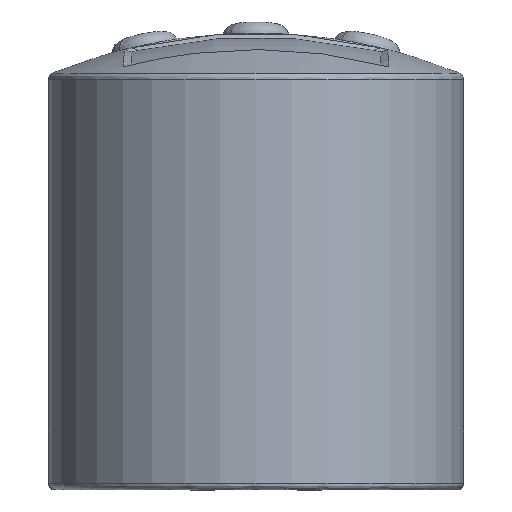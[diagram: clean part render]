
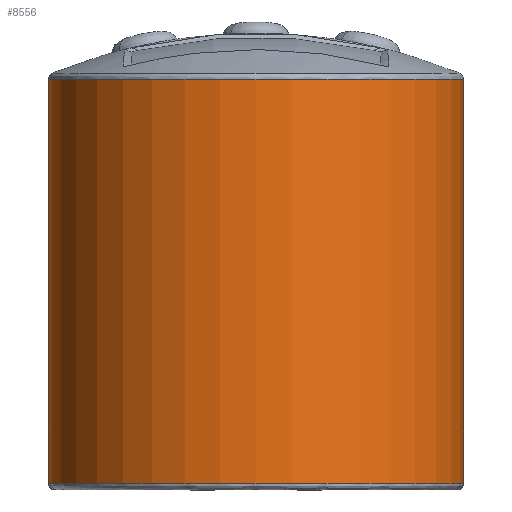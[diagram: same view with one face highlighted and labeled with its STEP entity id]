
A CAD part, front view. The second image highlights one B-rep face of the part: STEP entity #8556.
In plain terms, the highlighted cylindrical face has radius 15 mm (diameter 30 mm), a partial arc.
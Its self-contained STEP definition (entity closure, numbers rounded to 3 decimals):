
#472 = VECTOR ( 'NONE', #2467, 1000. ) ;
#660 = CARTESIAN_POINT ( 'NONE',  ( -15., 0., 29.675 ) ) ;
#978 = AXIS2_PLACEMENT_3D ( 'NONE', #6578, #2201, #7333 ) ;
#991 = DIRECTION ( 'NONE',  ( 0., 0., 1. ) ) ;
#1021 = VERTEX_POINT ( 'NONE', #6339 ) ;
#2201 = DIRECTION ( 'NONE',  ( 0., 0., -1. ) ) ;
#2467 = DIRECTION ( 'NONE',  ( 0., 0., -1. ) ) ;
#2561 = EDGE_LOOP ( 'NONE', ( #9119, #4866, #7107, #2721 ) ) ;
#2721 = ORIENTED_EDGE ( 'NONE', *, *, #6577, .T. ) ;
#2850 = LINE ( 'NONE', #5021, #7466 ) ;
#3116 = AXIS2_PLACEMENT_3D ( 'NONE', #5435, #991, #6158 ) ;
#3261 = CARTESIAN_POINT ( 'NONE',  ( 15., 0., 0.5 ) ) ;
#4371 = DIRECTION ( 'NONE',  ( 0., 0., -1. ) ) ;
#4866 = ORIENTED_EDGE ( 'NONE', *, *, #7522, .T. ) ;
#5021 = CARTESIAN_POINT ( 'NONE',  ( -15., 0., 30. ) ) ;
#5039 = CARTESIAN_POINT ( 'NONE',  ( 15., 0., 29.675 ) ) ;
#5206 = VERTEX_POINT ( 'NONE', #660 ) ;
#5435 = CARTESIAN_POINT ( 'NONE',  ( 0., 0., 0.5 ) ) ;
#5946 = FACE_OUTER_BOUND ( 'NONE', #2561, .T. ) ;
#6021 = CIRCLE ( 'NONE', #978, 15. ) ;
#6139 = EDGE_CURVE ( 'NONE', #7659, #7060, #7889, .T. ) ;
#6158 = DIRECTION ( 'NONE',  ( -1., 0., 0. ) ) ;
#6333 = DIRECTION ( 'NONE',  ( -1., 0., 0. ) ) ;
#6339 = CARTESIAN_POINT ( 'NONE',  ( -15., 0., 0.5 ) ) ;
#6420 = EDGE_CURVE ( 'NONE', #5206, #1021, #2850, .T. ) ;
#6577 = EDGE_CURVE ( 'NONE', #1021, #7060, #8176, .T. ) ;
#6578 = CARTESIAN_POINT ( 'NONE',  ( 0., 0., 29.675 ) ) ;
#6852 = CARTESIAN_POINT ( 'NONE',  ( 15., 0., 30. ) ) ;
#7060 = VERTEX_POINT ( 'NONE', #3261 ) ;
#7107 = ORIENTED_EDGE ( 'NONE', *, *, #6420, .T. ) ;
#7333 = DIRECTION ( 'NONE',  ( -1., 0., 0. ) ) ;
#7466 = VECTOR ( 'NONE', #4371, 1000. ) ;
#7522 = EDGE_CURVE ( 'NONE', #7659, #5206, #6021, .T. ) ;
#7659 = VERTEX_POINT ( 'NONE', #5039 ) ;
#7815 = CARTESIAN_POINT ( 'NONE',  ( 0., 0., 30. ) ) ;
#7889 = LINE ( 'NONE', #6852, #472 ) ;
#8176 = CIRCLE ( 'NONE', #3116, 15. ) ;
#8479 = CYLINDRICAL_SURFACE ( 'NONE', #9101, 15. ) ;
#8556 = ADVANCED_FACE ( 'NONE', ( #5946 ), #8479, .T. ) ;
#9101 = AXIS2_PLACEMENT_3D ( 'NONE', #7815, #9176, #6333 ) ;
#9119 = ORIENTED_EDGE ( 'NONE', *, *, #6139, .F. ) ;
#9176 = DIRECTION ( 'NONE',  ( 0., 0., -1. ) ) ;
